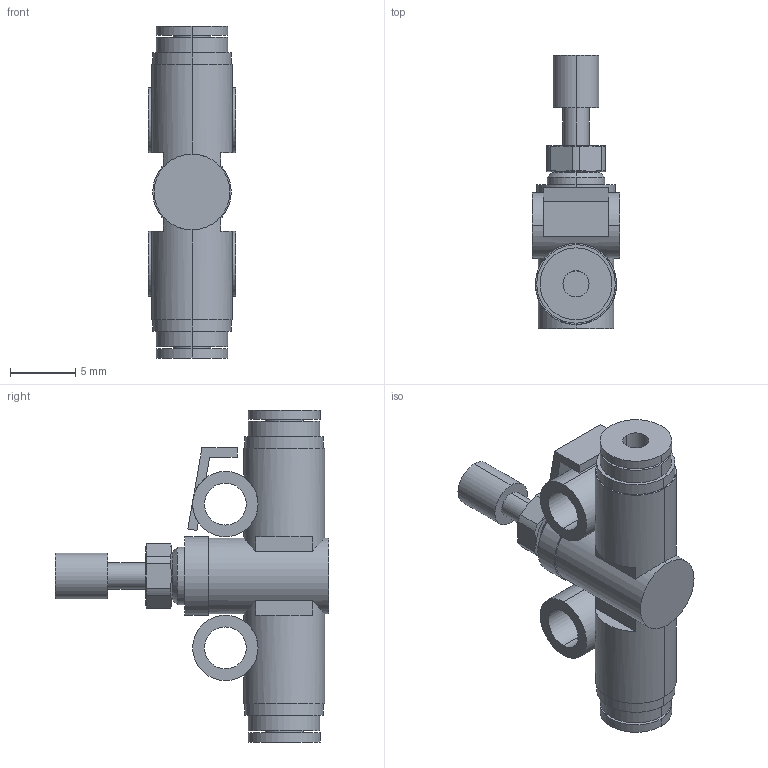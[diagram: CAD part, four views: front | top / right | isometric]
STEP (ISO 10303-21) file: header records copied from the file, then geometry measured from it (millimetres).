
FILE_DESCRIPTION( ( '' ), '1' );
FILE_NAME( 'G:/SMC狟婥/AS1002F-02.stp', '2023-03-07T03:57:22', ( '' ), ( '' ), ' ', ' ', ' ' );
FILE_SCHEMA( ( 'CONFIG_CONTROL_DESIGN' ) );
Length unit declared in the file: millimetre
Products named in the file (1): 1
Bounding box: 6.7 x 20.9 x 25.4 mm (x, y, z)
Volume: 1060.3 mm3; surface area: 1361.4 mm2
Topology: 1 solids, 1 shells, 105 faces, 244 edges, 160 vertices
Faces by surface type: plane 49, cylinder 48, cone 8
Entity records: 3344 total; most frequent: CARTESIAN_POINT 834, DIRECTION 546, ORIENTED_EDGE 488, EDGE_CURVE 244, AXIS2_PLACEMENT_3D 220, VERTEX_POINT 160, EDGE_LOOP 128, CIRCLE 114
